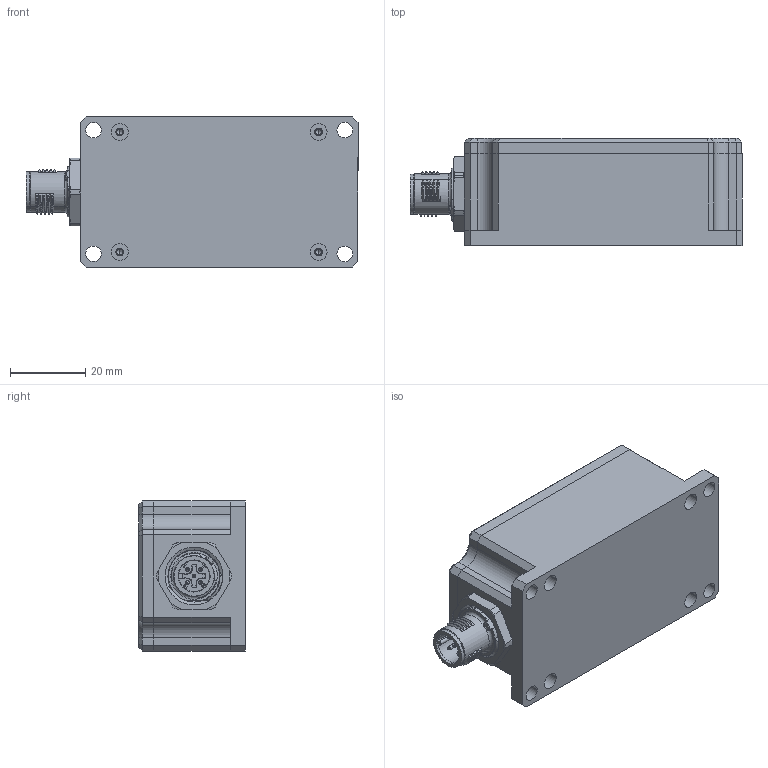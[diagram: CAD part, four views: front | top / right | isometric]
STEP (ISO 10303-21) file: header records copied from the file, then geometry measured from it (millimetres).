
FILE_DESCRIPTION (( 'STEP AP203' ), '1' );
FILE_NAME ('LpmsINC1-ASM-v1.2.STEP', '2023-01-13T07:47:24', ( '' ), ( '' ), 'SwSTEP 2.0', 'SolidWorks 2014', '' );
FILE_SCHEMA (( 'CONFIG_CONTROL_DESIGN' ));
Length unit declared in the file: millimetre
Products named in the file (1): LpmsINC1-ASM-v1.2
Bounding box: 88.5 x 28.5 x 40 mm (x, y, z)
Volume: 38134.5 mm3; surface area: 25289.1 mm2
Topology: 4 solids, 4 shells, 742 faces, 2031 edges, 1307 vertices
Faces by surface type: plane 320, cylinder 221, bspline 106, cone 46, sphere 28, torus 21
Entity records: 29709 total; most frequent: CARTESIAN_POINT 12475, ORIENTED_EDGE 3976, DIRECTION 2887, EDGE_CURVE 1988, VERTEX_POINT 1297, LINE 983, VECTOR 983, AXIS2_PLACEMENT_3D 952
